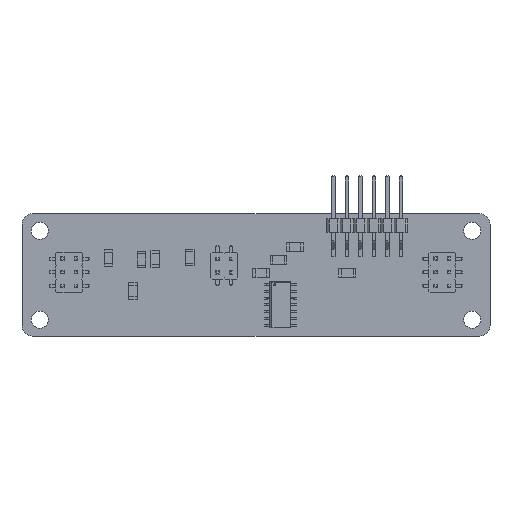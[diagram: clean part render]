
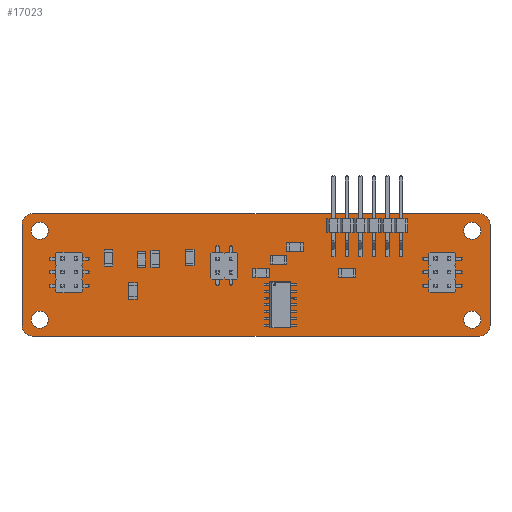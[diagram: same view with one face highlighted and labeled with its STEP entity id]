
A CAD part, top view. The second image highlights one B-rep face of the part: STEP entity #17023.
In plain terms, the highlighted planar face has unit normal (0, 0, 1).
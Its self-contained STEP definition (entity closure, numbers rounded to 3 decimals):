
#16614 = VERTEX_POINT('',#16615);
#16615 = CARTESIAN_POINT('',(194.25,-61.7,1.51));
#16621 = EDGE_CURVE('',#16614,#16622,#16624,.T.);
#16622 = VERTEX_POINT('',#16623);
#16623 = CARTESIAN_POINT('',(196.25,-63.7,1.51));
#16624 = CIRCLE('',#16625,2.);
#16625 = AXIS2_PLACEMENT_3D('',#16626,#16627,#16628);
#16626 = CARTESIAN_POINT('',(194.25,-63.7,1.51));
#16627 = DIRECTION('',(0.,0.,-1.));
#16628 = DIRECTION('',(0.,1.,0.));
#16654 = EDGE_CURVE('',#16622,#16655,#16657,.T.);
#16655 = VERTEX_POINT('',#16656);
#16656 = CARTESIAN_POINT('',(196.25,-82.7,1.51));
#16657 = LINE('',#16658,#16659);
#16658 = CARTESIAN_POINT('',(196.25,-63.7,1.51));
#16659 = VECTOR('',#16660,1.);
#16660 = DIRECTION('',(0.,-1.,0.));
#16685 = EDGE_CURVE('',#16655,#16686,#16688,.T.);
#16686 = VERTEX_POINT('',#16687);
#16687 = CARTESIAN_POINT('',(194.25,-84.7,1.51));
#16688 = CIRCLE('',#16689,2.);
#16689 = AXIS2_PLACEMENT_3D('',#16690,#16691,#16692);
#16690 = CARTESIAN_POINT('',(194.25,-82.7,1.51));
#16691 = DIRECTION('',(0.,0.,-1.));
#16692 = DIRECTION('',(1.,0.,0.));
#16718 = EDGE_CURVE('',#16686,#16719,#16721,.T.);
#16719 = VERTEX_POINT('',#16720);
#16720 = CARTESIAN_POINT('',(110.25,-84.7,1.51));
#16721 = LINE('',#16722,#16723);
#16722 = CARTESIAN_POINT('',(194.25,-84.7,1.51));
#16723 = VECTOR('',#16724,1.);
#16724 = DIRECTION('',(-1.,0.,0.));
#16749 = EDGE_CURVE('',#16719,#16750,#16752,.T.);
#16750 = VERTEX_POINT('',#16751);
#16751 = CARTESIAN_POINT('',(108.25,-82.7,1.51));
#16752 = CIRCLE('',#16753,2.);
#16753 = AXIS2_PLACEMENT_3D('',#16754,#16755,#16756);
#16754 = CARTESIAN_POINT('',(110.25,-82.7,1.51));
#16755 = DIRECTION('',(0.,0.,-1.));
#16756 = DIRECTION('',(0.,-1.,0.));
#16782 = EDGE_CURVE('',#16750,#16783,#16785,.T.);
#16783 = VERTEX_POINT('',#16784);
#16784 = CARTESIAN_POINT('',(108.25,-63.7,1.51));
#16785 = LINE('',#16786,#16787);
#16786 = CARTESIAN_POINT('',(108.25,-82.7,1.51));
#16787 = VECTOR('',#16788,1.);
#16788 = DIRECTION('',(0.,1.,0.));
#16813 = EDGE_CURVE('',#16783,#16814,#16816,.T.);
#16814 = VERTEX_POINT('',#16815);
#16815 = CARTESIAN_POINT('',(110.25,-61.7,1.51));
#16816 = CIRCLE('',#16817,2.);
#16817 = AXIS2_PLACEMENT_3D('',#16818,#16819,#16820);
#16818 = CARTESIAN_POINT('',(110.25,-63.7,1.51));
#16819 = DIRECTION('',(0.,0.,-1.));
#16820 = DIRECTION('',(-1.,0.,-0.));
#16846 = EDGE_CURVE('',#16814,#16614,#16847,.T.);
#16847 = LINE('',#16848,#16849);
#16848 = CARTESIAN_POINT('',(110.25,-61.7,1.51));
#16849 = VECTOR('',#16850,1.);
#16850 = DIRECTION('',(1.,0.,0.));
#16870 = VERTEX_POINT('',#16871);
#16871 = CARTESIAN_POINT('',(113.201,-81.599,1.51));
#16877 = EDGE_CURVE('',#16870,#16870,#16878,.T.);
#16878 = CIRCLE('',#16879,1.6);
#16879 = AXIS2_PLACEMENT_3D('',#16880,#16881,#16882);
#16880 = CARTESIAN_POINT('',(111.601,-81.599,1.51));
#16881 = DIRECTION('',(0.,0.,1.));
#16882 = DIRECTION('',(1.,0.,-0.));
#16903 = VERTEX_POINT('',#16904);
#16904 = CARTESIAN_POINT('',(194.501,-81.599,1.51));
#16910 = EDGE_CURVE('',#16903,#16903,#16911,.T.);
#16911 = CIRCLE('',#16912,1.6);
#16912 = AXIS2_PLACEMENT_3D('',#16913,#16914,#16915);
#16913 = CARTESIAN_POINT('',(192.901,-81.599,1.51));
#16914 = DIRECTION('',(0.,0.,1.));
#16915 = DIRECTION('',(1.,0.,-0.));
#16936 = VERTEX_POINT('',#16937);
#16937 = CARTESIAN_POINT('',(113.201,-64.899,1.51));
#16943 = EDGE_CURVE('',#16936,#16936,#16944,.T.);
#16944 = CIRCLE('',#16945,1.6);
#16945 = AXIS2_PLACEMENT_3D('',#16946,#16947,#16948);
#16946 = CARTESIAN_POINT('',(111.601,-64.899,1.51));
#16947 = DIRECTION('',(0.,0.,1.));
#16948 = DIRECTION('',(1.,0.,-0.));
#16969 = VERTEX_POINT('',#16970);
#16970 = CARTESIAN_POINT('',(194.501,-64.899,1.51));
#16976 = EDGE_CURVE('',#16969,#16969,#16977,.T.);
#16977 = CIRCLE('',#16978,1.6);
#16978 = AXIS2_PLACEMENT_3D('',#16979,#16980,#16981);
#16979 = CARTESIAN_POINT('',(192.901,-64.899,1.51));
#16980 = DIRECTION('',(0.,0.,1.));
#16981 = DIRECTION('',(1.,0.,-0.));
#17023 = ADVANCED_FACE('',(#17024,#17034,#17037,#17040,#17043),#17046,
  .T.);
#17024 = FACE_BOUND('',#17025,.F.);
#17025 = EDGE_LOOP('',(#17026,#17027,#17028,#17029,#17030,#17031,#17032,
    #17033));
#17026 = ORIENTED_EDGE('',*,*,#16621,.T.);
#17027 = ORIENTED_EDGE('',*,*,#16654,.T.);
#17028 = ORIENTED_EDGE('',*,*,#16685,.T.);
#17029 = ORIENTED_EDGE('',*,*,#16718,.T.);
#17030 = ORIENTED_EDGE('',*,*,#16749,.T.);
#17031 = ORIENTED_EDGE('',*,*,#16782,.T.);
#17032 = ORIENTED_EDGE('',*,*,#16813,.T.);
#17033 = ORIENTED_EDGE('',*,*,#16846,.T.);
#17034 = FACE_BOUND('',#17035,.F.);
#17035 = EDGE_LOOP('',(#17036));
#17036 = ORIENTED_EDGE('',*,*,#16877,.T.);
#17037 = FACE_BOUND('',#17038,.F.);
#17038 = EDGE_LOOP('',(#17039));
#17039 = ORIENTED_EDGE('',*,*,#16910,.T.);
#17040 = FACE_BOUND('',#17041,.F.);
#17041 = EDGE_LOOP('',(#17042));
#17042 = ORIENTED_EDGE('',*,*,#16943,.T.);
#17043 = FACE_BOUND('',#17044,.F.);
#17044 = EDGE_LOOP('',(#17045));
#17045 = ORIENTED_EDGE('',*,*,#16976,.T.);
#17046 = PLANE('',#17047);
#17047 = AXIS2_PLACEMENT_3D('',#17048,#17049,#17050);
#17048 = CARTESIAN_POINT('',(0.,0.,1.51));
#17049 = DIRECTION('',(0.,0.,1.));
#17050 = DIRECTION('',(1.,0.,-0.));
